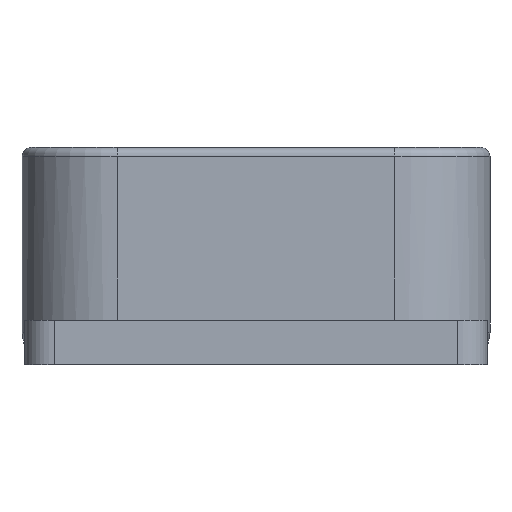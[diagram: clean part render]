
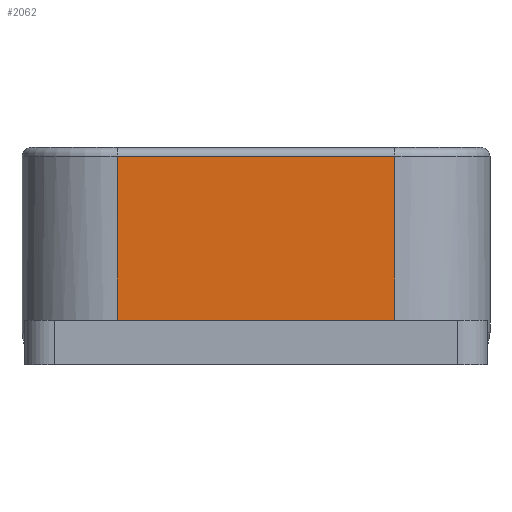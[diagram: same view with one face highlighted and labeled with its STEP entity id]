
A CAD part, left-side view. The second image highlights one B-rep face of the part: STEP entity #2062.
In plain terms, the highlighted planar face has unit normal (-1, 0, 0).
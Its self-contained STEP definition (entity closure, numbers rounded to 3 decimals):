
#44 = CYLINDRICAL_SURFACE('',#45,6.45);
#45 = AXIS2_PLACEMENT_3D('',#46,#47,#48);
#46 = CARTESIAN_POINT('',(3.4,3.4,-2.2));
#47 = DIRECTION('',(0.,0.,1.));
#48 = DIRECTION('',(0.,-1.,0.));
#1583 = CYLINDRICAL_SURFACE('',#1584,0.6);
#1584 = AXIS2_PLACEMENT_3D('',#1585,#1586,#1587);
#1585 = CARTESIAN_POINT('',(-2.45,22.2,11.9));
#1586 = DIRECTION('',(0.,-1.,0.));
#1587 = DIRECTION('',(-1.,-0.,0.));
#1946 = VERTEX_POINT('',#1947);
#1947 = CARTESIAN_POINT('',(-3.05,3.4,11.9));
#2014 = VERTEX_POINT('',#2015);
#2015 = CARTESIAN_POINT('',(-3.05,22.2,11.9));
#2037 = EDGE_CURVE('',#2014,#1946,#2038,.T.);
#2038 = SURFACE_CURVE('',#2039,(#2043,#2050),.PCURVE_S1.);
#2039 = LINE('',#2040,#2041);
#2040 = CARTESIAN_POINT('',(-3.05,22.2,11.9));
#2041 = VECTOR('',#2042,1.);
#2042 = DIRECTION('',(0.,-1.,0.));
#2043 = PCURVE('',#1583,#2044);
#2044 = DEFINITIONAL_REPRESENTATION('',(#2045),#2049);
#2045 = LINE('',#2046,#2047);
#2046 = CARTESIAN_POINT('',(-0.,0.));
#2047 = VECTOR('',#2048,1.);
#2048 = DIRECTION('',(-0.,1.));
#2049 = ( GEOMETRIC_REPRESENTATION_CONTEXT(2) 
PARAMETRIC_REPRESENTATION_CONTEXT() REPRESENTATION_CONTEXT('2D SPACE',''
  ) );
#2050 = PCURVE('',#2051,#2056);
#2051 = PLANE('',#2052);
#2052 = AXIS2_PLACEMENT_3D('',#2053,#2054,#2055);
#2053 = CARTESIAN_POINT('',(-3.05,28.65,-2.2));
#2054 = DIRECTION('',(1.,0.,-0.));
#2055 = DIRECTION('',(0.,-1.,0.));
#2056 = DEFINITIONAL_REPRESENTATION('',(#2057),#2061);
#2057 = LINE('',#2058,#2059);
#2058 = CARTESIAN_POINT('',(6.45,-14.1));
#2059 = VECTOR('',#2060,1.);
#2060 = DIRECTION('',(1.,0.));
#2061 = ( GEOMETRIC_REPRESENTATION_CONTEXT(2) 
PARAMETRIC_REPRESENTATION_CONTEXT() REPRESENTATION_CONTEXT('2D SPACE',''
  ) );
#2062 = ADVANCED_FACE('',(#2063),#2051,.F.);
#2063 = FACE_BOUND('',#2064,.F.);
#2064 = EDGE_LOOP('',(#2065,#2093,#2119,#2120));
#2065 = ORIENTED_EDGE('',*,*,#2066,.F.);
#2066 = EDGE_CURVE('',#2067,#2069,#2071,.T.);
#2067 = VERTEX_POINT('',#2068);
#2068 = CARTESIAN_POINT('',(-3.05,22.2,0.8));
#2069 = VERTEX_POINT('',#2070);
#2070 = CARTESIAN_POINT('',(-3.05,3.4,0.8));
#2071 = SURFACE_CURVE('',#2072,(#2076,#2082),.PCURVE_S1.);
#2072 = LINE('',#2073,#2074);
#2073 = CARTESIAN_POINT('',(-3.05,12.9,0.8));
#2074 = VECTOR('',#2075,1.);
#2075 = DIRECTION('',(0.,-1.,0.));
#2076 = PCURVE('',#2051,#2077);
#2077 = DEFINITIONAL_REPRESENTATION('',(#2078),#2081);
#2078 = B_SPLINE_CURVE_WITH_KNOTS('',1,(#2079,#2080),.UNSPECIFIED.,.F.,
  .F.,(2,2),(-9.3,9.5),.PIECEWISE_BEZIER_KNOTS.);
#2079 = CARTESIAN_POINT('',(6.45,-3.));
#2080 = CARTESIAN_POINT('',(25.25,-3.));
#2081 = ( GEOMETRIC_REPRESENTATION_CONTEXT(2) 
PARAMETRIC_REPRESENTATION_CONTEXT() REPRESENTATION_CONTEXT('2D SPACE',''
  ) );
#2082 = PCURVE('',#2083,#2088);
#2083 = PLANE('',#2084);
#2084 = AXIS2_PLACEMENT_3D('',#2085,#2086,#2087);
#2085 = CARTESIAN_POINT('',(-9.65,-2.85,0.8));
#2086 = DIRECTION('',(0.,0.,1.));
#2087 = DIRECTION('',(1.,0.,0.));
#2088 = DEFINITIONAL_REPRESENTATION('',(#2089),#2092);
#2089 = B_SPLINE_CURVE_WITH_KNOTS('',1,(#2090,#2091),.UNSPECIFIED.,.F.,
  .F.,(2,2),(-9.3,9.5),.PIECEWISE_BEZIER_KNOTS.);
#2090 = CARTESIAN_POINT('',(6.6,25.05));
#2091 = CARTESIAN_POINT('',(6.6,6.25));
#2092 = ( GEOMETRIC_REPRESENTATION_CONTEXT(2) 
PARAMETRIC_REPRESENTATION_CONTEXT() REPRESENTATION_CONTEXT('2D SPACE',''
  ) );
#2093 = ORIENTED_EDGE('',*,*,#2094,.T.);
#2094 = EDGE_CURVE('',#2067,#2014,#2095,.T.);
#2095 = SURFACE_CURVE('',#2096,(#2100,#2107),.PCURVE_S1.);
#2096 = LINE('',#2097,#2098);
#2097 = CARTESIAN_POINT('',(-3.05,22.2,-2.2));
#2098 = VECTOR('',#2099,1.);
#2099 = DIRECTION('',(0.,0.,1.));
#2100 = PCURVE('',#2051,#2101);
#2101 = DEFINITIONAL_REPRESENTATION('',(#2102),#2106);
#2102 = LINE('',#2103,#2104);
#2103 = CARTESIAN_POINT('',(6.45,0.));
#2104 = VECTOR('',#2105,1.);
#2105 = DIRECTION('',(0.,-1.));
#2106 = ( GEOMETRIC_REPRESENTATION_CONTEXT(2) 
PARAMETRIC_REPRESENTATION_CONTEXT() REPRESENTATION_CONTEXT('2D SPACE',''
  ) );
#2107 = PCURVE('',#2108,#2113);
#2108 = CYLINDRICAL_SURFACE('',#2109,6.45);
#2109 = AXIS2_PLACEMENT_3D('',#2110,#2111,#2112);
#2110 = CARTESIAN_POINT('',(3.4,22.2,-2.2));
#2111 = DIRECTION('',(0.,0.,1.));
#2112 = DIRECTION('',(-0.,1.,0.));
#2113 = DEFINITIONAL_REPRESENTATION('',(#2114),#2118);
#2114 = LINE('',#2115,#2116);
#2115 = CARTESIAN_POINT('',(1.571,0.));
#2116 = VECTOR('',#2117,1.);
#2117 = DIRECTION('',(0.,1.));
#2118 = ( GEOMETRIC_REPRESENTATION_CONTEXT(2) 
PARAMETRIC_REPRESENTATION_CONTEXT() REPRESENTATION_CONTEXT('2D SPACE',''
  ) );
#2119 = ORIENTED_EDGE('',*,*,#2037,.T.);
#2120 = ORIENTED_EDGE('',*,*,#2121,.F.);
#2121 = EDGE_CURVE('',#2069,#1946,#2122,.T.);
#2122 = SURFACE_CURVE('',#2123,(#2127,#2134),.PCURVE_S1.);
#2123 = LINE('',#2124,#2125);
#2124 = CARTESIAN_POINT('',(-3.05,3.4,-2.2));
#2125 = VECTOR('',#2126,1.);
#2126 = DIRECTION('',(0.,0.,1.));
#2127 = PCURVE('',#2051,#2128);
#2128 = DEFINITIONAL_REPRESENTATION('',(#2129),#2133);
#2129 = LINE('',#2130,#2131);
#2130 = CARTESIAN_POINT('',(25.25,0.));
#2131 = VECTOR('',#2132,1.);
#2132 = DIRECTION('',(0.,-1.));
#2133 = ( GEOMETRIC_REPRESENTATION_CONTEXT(2) 
PARAMETRIC_REPRESENTATION_CONTEXT() REPRESENTATION_CONTEXT('2D SPACE',''
  ) );
#2134 = PCURVE('',#44,#2135);
#2135 = DEFINITIONAL_REPRESENTATION('',(#2136),#2140);
#2136 = LINE('',#2137,#2138);
#2137 = CARTESIAN_POINT('',(-1.571,0.));
#2138 = VECTOR('',#2139,1.);
#2139 = DIRECTION('',(-0.,1.));
#2140 = ( GEOMETRIC_REPRESENTATION_CONTEXT(2) 
PARAMETRIC_REPRESENTATION_CONTEXT() REPRESENTATION_CONTEXT('2D SPACE',''
  ) );
